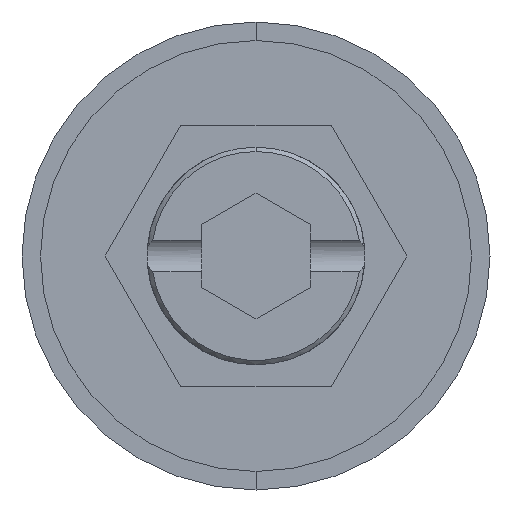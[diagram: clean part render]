
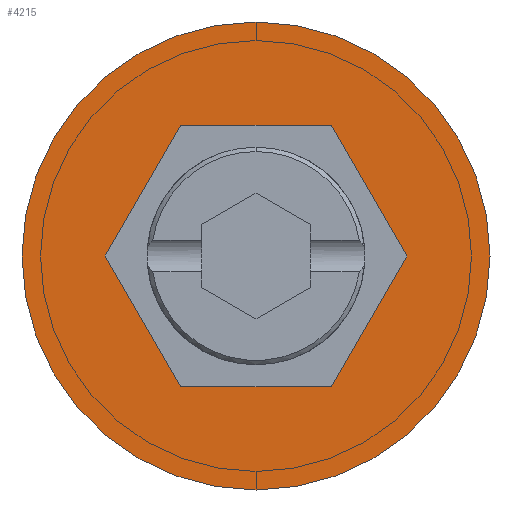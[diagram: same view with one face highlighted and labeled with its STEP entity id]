
A CAD part, front view. The second image highlights one B-rep face of the part: STEP entity #4215.
In plain terms, the highlighted planar face has unit normal (0, -1, 0).
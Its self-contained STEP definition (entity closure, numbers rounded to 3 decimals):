
#28 = CARTESIAN_POINT ( 'NONE',  ( -3.464, 0., 6. ) ) ;
#44 = EDGE_CURVE ( 'NONE', #4642, #3571, #3165, .T. ) ;
#45 = EDGE_LOOP ( 'NONE', ( #1444, #2085 ) ) ;
#140 = VERTEX_POINT ( 'NONE', #4442 ) ;
#171 = CARTESIAN_POINT ( 'NONE',  ( 3.464, 0., 6. ) ) ;
#254 = CIRCLE ( 'NONE', #340, 10.75 ) ;
#276 = CARTESIAN_POINT ( 'NONE',  ( 0., 0., 0. ) ) ;
#300 = VERTEX_POINT ( 'NONE', #3888 ) ;
#304 = LINE ( 'NONE', #3963, #3105 ) ;
#340 = AXIS2_PLACEMENT_3D ( 'NONE', #2655, #4965, #2687 ) ;
#373 = FACE_OUTER_BOUND ( 'NONE', #45, .T. ) ;
#515 = VERTEX_POINT ( 'NONE', #1926 ) ;
#582 = EDGE_CURVE ( 'NONE', #4517, #300, #1436, .T. ) ;
#663 = DIRECTION ( 'NONE',  ( 0., 0., -1. ) ) ;
#674 = LINE ( 'NONE', #4482, #3842 ) ;
#681 = DIRECTION ( 'NONE',  ( 0., -1., 0. ) ) ;
#741 = ORIENTED_EDGE ( 'NONE', *, *, #2710, .F. ) ;
#784 = VECTOR ( 'NONE', #3512, 1000. ) ;
#966 = CARTESIAN_POINT ( 'NONE',  ( 6.928, 0., 0. ) ) ;
#1142 = LINE ( 'NONE', #171, #2031 ) ;
#1151 = DIRECTION ( 'NONE',  ( 1., 0., 0. ) ) ;
#1160 = VERTEX_POINT ( 'NONE', #4494 ) ;
#1397 = ORIENTED_EDGE ( 'NONE', *, *, #2887, .F. ) ;
#1436 = LINE ( 'NONE', #1635, #3350 ) ;
#1444 = ORIENTED_EDGE ( 'NONE', *, *, #5016, .T. ) ;
#1473 = EDGE_CURVE ( 'NONE', #1160, #140, #254, .T. ) ;
#1582 = DIRECTION ( 'NONE',  ( 0.5, 0., -0.866 ) ) ;
#1635 = CARTESIAN_POINT ( 'NONE',  ( -6.928, 0., 0. ) ) ;
#1674 = LINE ( 'NONE', #3556, #784 ) ;
#1926 = CARTESIAN_POINT ( 'NONE',  ( 3.464, 0., -6. ) ) ;
#2031 = VECTOR ( 'NONE', #4006, 1000. ) ;
#2085 = ORIENTED_EDGE ( 'NONE', *, *, #1473, .T. ) ;
#2153 = VECTOR ( 'NONE', #4384, 1000. ) ;
#2165 = AXIS2_PLACEMENT_3D ( 'NONE', #276, #2950, #663 ) ;
#2191 = ORIENTED_EDGE ( 'NONE', *, *, #2622, .F. ) ;
#2203 = EDGE_LOOP ( 'NONE', ( #741, #4145, #1397, #3106, #2699, #2191 ) ) ;
#2277 = FACE_BOUND ( 'NONE', #2203, .T. ) ;
#2470 = EDGE_CURVE ( 'NONE', #3571, #3652, #1142, .T. ) ;
#2613 = AXIS2_PLACEMENT_3D ( 'NONE', #4907, #681, #3340 ) ;
#2622 = EDGE_CURVE ( 'NONE', #515, #4642, #1674, .T. ) ;
#2655 = CARTESIAN_POINT ( 'NONE',  ( 0., 0., 0. ) ) ;
#2687 = DIRECTION ( 'NONE',  ( 0., 0., -1. ) ) ;
#2699 = ORIENTED_EDGE ( 'NONE', *, *, #44, .F. ) ;
#2710 = EDGE_CURVE ( 'NONE', #300, #515, #674, .T. ) ;
#2887 = EDGE_CURVE ( 'NONE', #3652, #4517, #304, .T. ) ;
#2950 = DIRECTION ( 'NONE',  ( 0., -1., 0. ) ) ;
#2961 = PLANE ( 'NONE',  #2613 ) ;
#3105 = VECTOR ( 'NONE', #3517, 1000. ) ;
#3106 = ORIENTED_EDGE ( 'NONE', *, *, #2470, .F. ) ;
#3165 = LINE ( 'NONE', #3325, #2153 ) ;
#3325 = CARTESIAN_POINT ( 'NONE',  ( 6.928, 0., 0. ) ) ;
#3340 = DIRECTION ( 'NONE',  ( 0., 0., -1. ) ) ;
#3350 = VECTOR ( 'NONE', #1582, 1000. ) ;
#3512 = DIRECTION ( 'NONE',  ( 0.5, 0., 0.866 ) ) ;
#3517 = DIRECTION ( 'NONE',  ( -0.5, 0., -0.866 ) ) ;
#3556 = CARTESIAN_POINT ( 'NONE',  ( 3.464, 0., -6. ) ) ;
#3571 = VERTEX_POINT ( 'NONE', #3851 ) ;
#3652 = VERTEX_POINT ( 'NONE', #28 ) ;
#3842 = VECTOR ( 'NONE', #1151, 1000. ) ;
#3851 = CARTESIAN_POINT ( 'NONE',  ( 3.464, 0., 6. ) ) ;
#3888 = CARTESIAN_POINT ( 'NONE',  ( -3.464, 0., -6. ) ) ;
#3963 = CARTESIAN_POINT ( 'NONE',  ( -3.464, 0., 6. ) ) ;
#4006 = DIRECTION ( 'NONE',  ( -1., 0., 0. ) ) ;
#4013 = CIRCLE ( 'NONE', #2165, 10.75 ) ;
#4145 = ORIENTED_EDGE ( 'NONE', *, *, #582, .F. ) ;
#4215 = ADVANCED_FACE ( 'NONE', ( #2277, #373 ), #2961, .T. ) ;
#4384 = DIRECTION ( 'NONE',  ( -0.5, 0., 0.866 ) ) ;
#4442 = CARTESIAN_POINT ( 'NONE',  ( 0., 0., -10.75 ) ) ;
#4482 = CARTESIAN_POINT ( 'NONE',  ( -3.464, 0., -6. ) ) ;
#4494 = CARTESIAN_POINT ( 'NONE',  ( 0., 0., 10.75 ) ) ;
#4517 = VERTEX_POINT ( 'NONE', #4979 ) ;
#4642 = VERTEX_POINT ( 'NONE', #966 ) ;
#4907 = CARTESIAN_POINT ( 'NONE',  ( 0., 0., 0. ) ) ;
#4965 = DIRECTION ( 'NONE',  ( 0., -1., 0. ) ) ;
#4979 = CARTESIAN_POINT ( 'NONE',  ( -6.928, 0., 0. ) ) ;
#5016 = EDGE_CURVE ( 'NONE', #140, #1160, #4013, .T. ) ;
